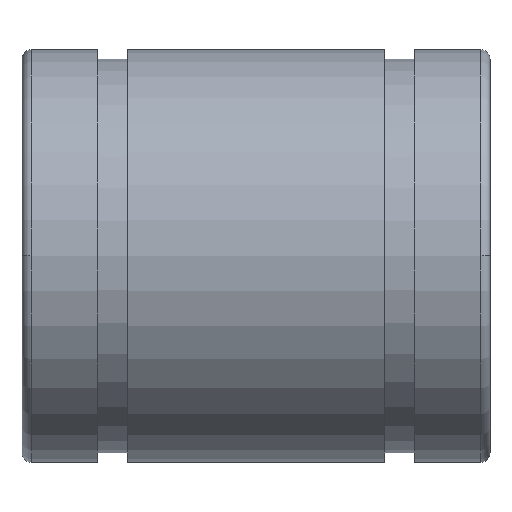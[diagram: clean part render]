
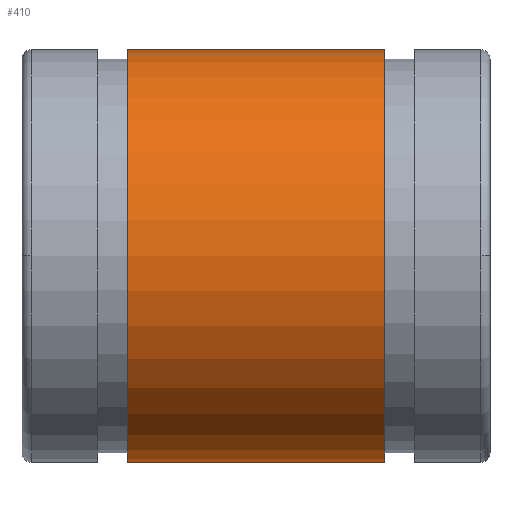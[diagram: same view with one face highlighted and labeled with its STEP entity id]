
A CAD part, top view. The second image highlights one B-rep face of the part: STEP entity #410.
In plain terms, the highlighted cylindrical face has radius 7.5 mm (diameter 15 mm), a partial arc.
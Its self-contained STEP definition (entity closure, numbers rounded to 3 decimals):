
#350 = PLANE('',#351);
#351 = AXIS2_PLACEMENT_3D('',#352,#353,#354);
#352 = CARTESIAN_POINT('',(4.65,7.325,0.));
#353 = DIRECTION('',(1.,0.,0.));
#354 = DIRECTION('',(-0.,1.,0.));
#410 = ADVANCED_FACE('',(#411),#425,.T.);
#411 = FACE_BOUND('',#412,.T.);
#412 = EDGE_LOOP('',(#413,#448,#481,#504));
#413 = ORIENTED_EDGE('',*,*,#414,.F.);
#414 = EDGE_CURVE('',#415,#417,#419,.T.);
#415 = VERTEX_POINT('',#416);
#416 = CARTESIAN_POINT('',(-4.65,7.5,0.));
#417 = VERTEX_POINT('',#418);
#418 = CARTESIAN_POINT('',(4.65,7.5,0.));
#419 = SURFACE_CURVE('',#420,(#424,#436),.PCURVE_S1.);
#420 = LINE('',#421,#422);
#421 = CARTESIAN_POINT('',(0.,7.5,0.));
#422 = VECTOR('',#423,1.);
#423 = DIRECTION('',(1.,0.,0.));
#424 = PCURVE('',#425,#430);
#425 = CYLINDRICAL_SURFACE('',#426,7.5);
#426 = AXIS2_PLACEMENT_3D('',#427,#428,#429);
#427 = CARTESIAN_POINT('',(0.,0.,0.));
#428 = DIRECTION('',(1.,0.,0.));
#429 = DIRECTION('',(-0.,1.,0.));
#430 = DEFINITIONAL_REPRESENTATION('',(#431),#435);
#431 = LINE('',#432,#433);
#432 = CARTESIAN_POINT('',(0.,0.));
#433 = VECTOR('',#434,1.);
#434 = DIRECTION('',(0.,1.));
#435 = ( GEOMETRIC_REPRESENTATION_CONTEXT(2) 
PARAMETRIC_REPRESENTATION_CONTEXT() REPRESENTATION_CONTEXT('2D SPACE',''
  ) );
#436 = PCURVE('',#437,#442);
#437 = CYLINDRICAL_SURFACE('',#438,7.5);
#438 = AXIS2_PLACEMENT_3D('',#439,#440,#441);
#439 = CARTESIAN_POINT('',(0.,0.,0.));
#440 = DIRECTION('',(1.,0.,0.));
#441 = DIRECTION('',(-0.,1.,0.));
#442 = DEFINITIONAL_REPRESENTATION('',(#443),#447);
#443 = LINE('',#444,#445);
#444 = CARTESIAN_POINT('',(6.283,0.));
#445 = VECTOR('',#446,1.);
#446 = DIRECTION('',(0.,1.));
#447 = ( GEOMETRIC_REPRESENTATION_CONTEXT(2) 
PARAMETRIC_REPRESENTATION_CONTEXT() REPRESENTATION_CONTEXT('2D SPACE',''
  ) );
#448 = ORIENTED_EDGE('',*,*,#449,.T.);
#449 = EDGE_CURVE('',#415,#450,#452,.T.);
#450 = VERTEX_POINT('',#451);
#451 = CARTESIAN_POINT('',(-4.65,-7.5,0.));
#452 = SURFACE_CURVE('',#453,(#458,#465),.PCURVE_S1.);
#453 = CIRCLE('',#454,7.5);
#454 = AXIS2_PLACEMENT_3D('',#455,#456,#457);
#455 = CARTESIAN_POINT('',(-4.65,0.,0.));
#456 = DIRECTION('',(1.,0.,0.));
#457 = DIRECTION('',(-0.,1.,0.));
#458 = PCURVE('',#425,#459);
#459 = DEFINITIONAL_REPRESENTATION('',(#460),#464);
#460 = LINE('',#461,#462);
#461 = CARTESIAN_POINT('',(0.,-4.65));
#462 = VECTOR('',#463,1.);
#463 = DIRECTION('',(1.,0.));
#464 = ( GEOMETRIC_REPRESENTATION_CONTEXT(2) 
PARAMETRIC_REPRESENTATION_CONTEXT() REPRESENTATION_CONTEXT('2D SPACE',''
  ) );
#465 = PCURVE('',#466,#471);
#466 = PLANE('',#467);
#467 = AXIS2_PLACEMENT_3D('',#468,#469,#470);
#468 = CARTESIAN_POINT('',(-4.65,7.325,0.));
#469 = DIRECTION('',(-1.,-0.,0.));
#470 = DIRECTION('',(0.,-1.,-0.));
#471 = DEFINITIONAL_REPRESENTATION('',(#472),#480);
#472 = ( BOUNDED_CURVE() B_SPLINE_CURVE(2,(#473,#474,#475,#476,#477,#478
,#479),.UNSPECIFIED.,.T.,.F.) B_SPLINE_CURVE_WITH_KNOTS((1,2,2,2,2,1),(
    -2.094,0.,2.094,4.189,6.283,
8.378),.UNSPECIFIED.) CURVE() GEOMETRIC_REPRESENTATION_ITEM() 
RATIONAL_B_SPLINE_CURVE((1.,0.5,1.,0.5,1.,0.5,1.)) REPRESENTATION_ITEM(
  '') );
#473 = CARTESIAN_POINT('',(-0.175,0.));
#474 = CARTESIAN_POINT('',(-0.175,12.99));
#475 = CARTESIAN_POINT('',(11.075,6.495));
#476 = CARTESIAN_POINT('',(22.325,0.));
#477 = CARTESIAN_POINT('',(11.075,-6.495));
#478 = CARTESIAN_POINT('',(-0.175,-12.99));
#479 = CARTESIAN_POINT('',(-0.175,0.));
#480 = ( GEOMETRIC_REPRESENTATION_CONTEXT(2) 
PARAMETRIC_REPRESENTATION_CONTEXT() REPRESENTATION_CONTEXT('2D SPACE',''
  ) );
#481 = ORIENTED_EDGE('',*,*,#482,.F.);
#482 = EDGE_CURVE('',#483,#450,#485,.T.);
#483 = VERTEX_POINT('',#484);
#484 = CARTESIAN_POINT('',(4.65,-7.5,0.));
#485 = SURFACE_CURVE('',#486,(#490,#497),.PCURVE_S1.);
#486 = LINE('',#487,#488);
#487 = CARTESIAN_POINT('',(0.,-7.5,0.));
#488 = VECTOR('',#489,1.);
#489 = DIRECTION('',(-1.,-0.,-0.));
#490 = PCURVE('',#425,#491);
#491 = DEFINITIONAL_REPRESENTATION('',(#492),#496);
#492 = LINE('',#493,#494);
#493 = CARTESIAN_POINT('',(3.142,0.));
#494 = VECTOR('',#495,1.);
#495 = DIRECTION('',(0.,-1.));
#496 = ( GEOMETRIC_REPRESENTATION_CONTEXT(2) 
PARAMETRIC_REPRESENTATION_CONTEXT() REPRESENTATION_CONTEXT('2D SPACE',''
  ) );
#497 = PCURVE('',#437,#498);
#498 = DEFINITIONAL_REPRESENTATION('',(#499),#503);
#499 = LINE('',#500,#501);
#500 = CARTESIAN_POINT('',(3.142,0.));
#501 = VECTOR('',#502,1.);
#502 = DIRECTION('',(0.,-1.));
#503 = ( GEOMETRIC_REPRESENTATION_CONTEXT(2) 
PARAMETRIC_REPRESENTATION_CONTEXT() REPRESENTATION_CONTEXT('2D SPACE',''
  ) );
#504 = ORIENTED_EDGE('',*,*,#505,.F.);
#505 = EDGE_CURVE('',#417,#483,#506,.T.);
#506 = SURFACE_CURVE('',#507,(#512,#519),.PCURVE_S1.);
#507 = CIRCLE('',#508,7.5);
#508 = AXIS2_PLACEMENT_3D('',#509,#510,#511);
#509 = CARTESIAN_POINT('',(4.65,0.,0.));
#510 = DIRECTION('',(1.,0.,0.));
#511 = DIRECTION('',(-0.,1.,0.));
#512 = PCURVE('',#425,#513);
#513 = DEFINITIONAL_REPRESENTATION('',(#514),#518);
#514 = LINE('',#515,#516);
#515 = CARTESIAN_POINT('',(0.,4.65));
#516 = VECTOR('',#517,1.);
#517 = DIRECTION('',(1.,0.));
#518 = ( GEOMETRIC_REPRESENTATION_CONTEXT(2) 
PARAMETRIC_REPRESENTATION_CONTEXT() REPRESENTATION_CONTEXT('2D SPACE',''
  ) );
#519 = PCURVE('',#350,#520);
#520 = DEFINITIONAL_REPRESENTATION('',(#521),#525);
#521 = CIRCLE('',#522,7.5);
#522 = AXIS2_PLACEMENT_2D('',#523,#524);
#523 = CARTESIAN_POINT('',(-7.325,0.));
#524 = DIRECTION('',(1.,0.));
#525 = ( GEOMETRIC_REPRESENTATION_CONTEXT(2) 
PARAMETRIC_REPRESENTATION_CONTEXT() REPRESENTATION_CONTEXT('2D SPACE',''
  ) );
